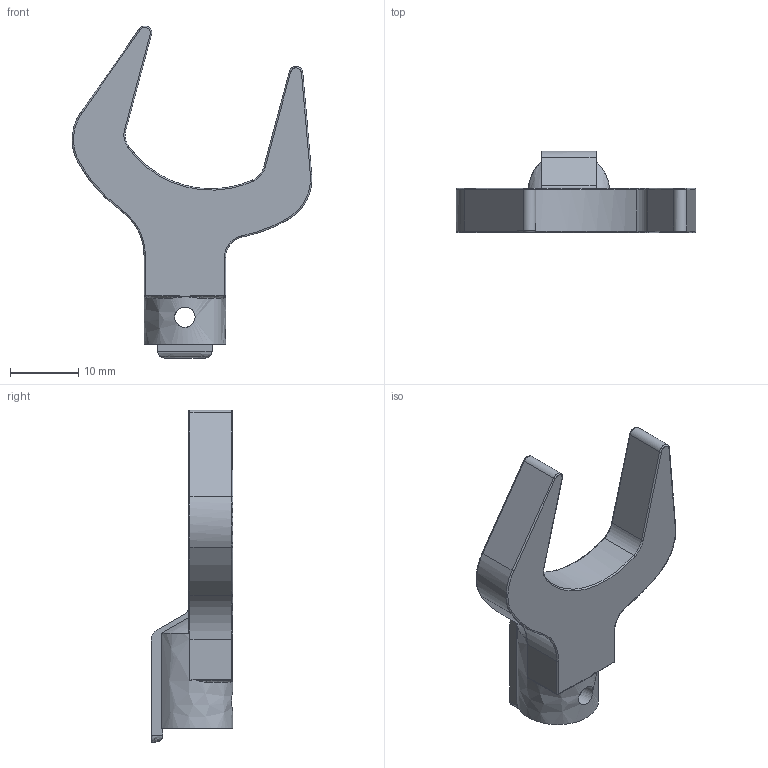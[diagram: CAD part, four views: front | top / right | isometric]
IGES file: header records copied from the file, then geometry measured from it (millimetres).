
Global section: file name: SH8DX21; native system: Autodesk Inventor 2016; preprocessor: unknown; author: Q600; date: 20151029.200501; units: millimetre
Bounding box: 35.24 x 12 x 48.82 mm (x, y, z)
Volume: 4320.9 mm3; surface area: 2757.6 mm2
Topology: 1 solids, 1 shells, 94 faces, 236 edges, 137 vertices
Faces by surface type: bspline 94
